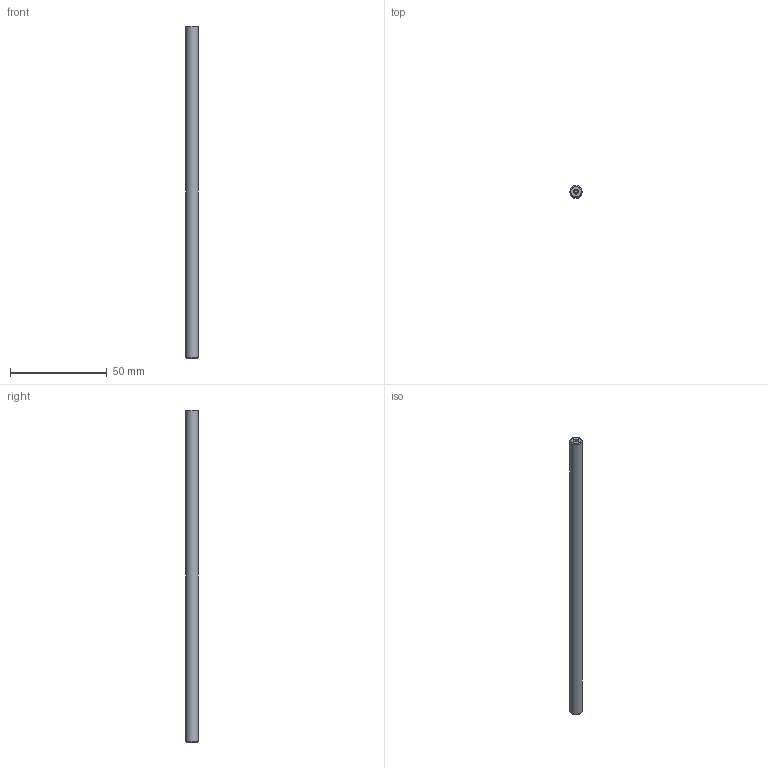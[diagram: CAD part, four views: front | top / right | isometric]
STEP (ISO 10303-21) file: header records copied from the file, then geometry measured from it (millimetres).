
FILE_DESCRIPTION(/* description */ (''),/* implementation_level */ '2;1');
FILE_NAME(/* name */ 'LM1247-100-Rod.stp',/* time_stamp */ '2017-09-06T14:02:47+02:00',/* author */ ('DR. FRITZ FAULHABER GmbH & Co. KG'),/* organization */ ('DR. FRITZ FAULHABER GmbH & Co. KG'),/* preprocessor_version */ 'ST-DEVELOPER v16',/* originating_system */ 'SIEMENS PLM Software NX 10.0',/* authorisation */ '');
FILE_SCHEMA (('AUTOMOTIVE_DESIGN { 1 0 10303 214 3 1 1 1 }'));
Length unit declared in the file: millimetre
Products named in the file (1): Alle_Motoren
Bounding box: 6.31 x 6.31 x 172 mm (x, y, z)
Volume: 5362.5 mm3; surface area: 3491.6 mm2
Topology: 1 solids, 1 shells, 11 faces, 20 edges, 13 vertices
Faces by surface type: plane 4, cylinder 3, cone 2, torus 2
Full cylindrical faces by diameter (mm): 1.6 x2, 6.31 x1
Entity records: 238 total; most frequent: DIRECTION 44, CARTESIAN_POINT 32, AXIS2_PLACEMENT_3D 22, EDGE_LOOP 20, ORIENTED_EDGE 20, FACE_BOUND 18, ADVANCED_FACE 11, VERTEX_POINT 10
